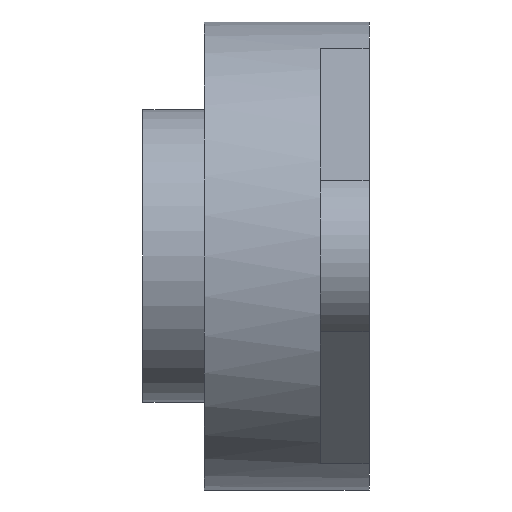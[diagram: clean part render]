
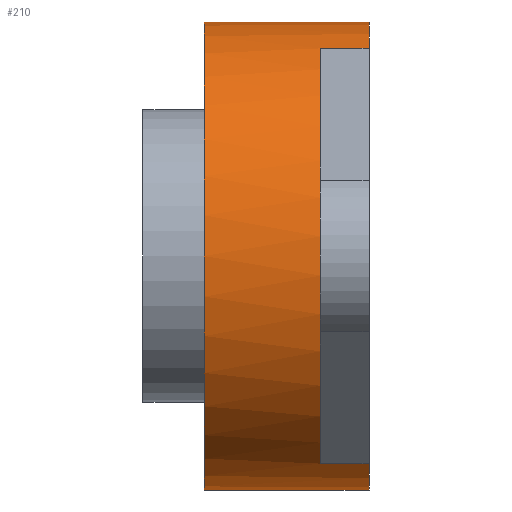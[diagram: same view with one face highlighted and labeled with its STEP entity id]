
A CAD part, front view. The second image highlights one B-rep face of the part: STEP entity #210.
In plain terms, the highlighted cylindrical face has radius 54 mm (diameter 108 mm), a partial arc.
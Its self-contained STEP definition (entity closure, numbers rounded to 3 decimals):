
#3 = ORIENTED_EDGE ( 'NONE', *, *, #85, .T. ) ;
#5 = ORIENTED_EDGE ( 'NONE', *, *, #258, .F. ) ;
#10 = VERTEX_POINT ( 'NONE', #295 ) ;
#11 = ORIENTED_EDGE ( 'NONE', *, *, #262, .T. ) ;
#24 = ORIENTED_EDGE ( 'NONE', *, *, #211, .T. ) ;
#26 = VERTEX_POINT ( 'NONE', #280 ) ;
#30 = ORIENTED_EDGE ( 'NONE', *, *, #182, .T. ) ;
#32 = ORIENTED_EDGE ( 'NONE', *, *, #89, .F. ) ;
#42 = ORIENTED_EDGE ( 'NONE', *, *, #214, .T. ) ;
#43 = ORIENTED_EDGE ( 'NONE', *, *, #248, .F. ) ;
#59 = VERTEX_POINT ( 'NONE', #379 ) ;
#65 = VERTEX_POINT ( 'NONE', #363 ) ;
#85 = EDGE_CURVE ( 'NONE', #65, #173, #409, .T. ) ;
#88 = VERTEX_POINT ( 'NONE', #396 ) ;
#89 = EDGE_CURVE ( 'NONE', #152, #88, #406, .T. ) ;
#142 = VERTEX_POINT ( 'NONE', #496 ) ;
#152 = VERTEX_POINT ( 'NONE', #533 ) ;
#173 = VERTEX_POINT ( 'NONE', #548 ) ;
#174 = EDGE_CURVE ( 'NONE', #197, #59, #547, .T. ) ;
#182 = EDGE_CURVE ( 'NONE', #152, #142, #597, .T. ) ;
#197 = VERTEX_POINT ( 'NONE', #611 ) ;
#210 = ADVANCED_FACE ( 'NONE', ( #655 ), #654, .T. ) ;
#211 = EDGE_CURVE ( 'NONE', #173, #59, #656, .T. ) ;
#214 = EDGE_CURVE ( 'NONE', #219, #88, #644, .T. ) ;
#219 = VERTEX_POINT ( 'NONE', #645 ) ;
#224 = EDGE_LOOP ( 'NONE', ( #229, #241, #42, #32, #30, #11, #43, #5, #3, #24 ) ) ;
#229 = ORIENTED_EDGE ( 'NONE', *, *, #174, .F. ) ;
#241 = ORIENTED_EDGE ( 'NONE', *, *, #257, .F. ) ;
#248 = EDGE_CURVE ( 'NONE', #10, #26, #700, .T. ) ;
#257 = EDGE_CURVE ( 'NONE', #219, #197, #695, .T. ) ;
#258 = EDGE_CURVE ( 'NONE', #65, #10, #708, .T. ) ;
#262 = EDGE_CURVE ( 'NONE', #142, #26, #701, .T. ) ;
#280 = CARTESIAN_POINT ( 'NONE',  ( -11.25, -24.909, 47.912 ) ) ;
#295 = CARTESIAN_POINT ( 'NONE',  ( 0., -24.909, 47.912 ) ) ;
#363 = CARTESIAN_POINT ( 'NONE',  ( 0., 0., 54. ) ) ;
#379 = CARTESIAN_POINT ( 'NONE',  ( -38., 0., -54. ) ) ;
#391 = DIRECTION ( 'NONE',  ( 0., 0.887, -0.461 ) ) ;
#392 = VECTOR ( 'NONE', #391, 1000. ) ;
#393 = CARTESIAN_POINT ( 'NONE',  ( -11.25, -54.135, -32.718 ) ) ;
#396 = CARTESIAN_POINT ( 'NONE',  ( -11.25, -24.909, -47.912 ) ) ;
#403 = DIRECTION ( 'NONE',  ( -1., 0., 0. ) ) ;
#404 = VECTOR ( 'NONE', #403, 1000. ) ;
#406 = LINE ( 'NONE', #393, #392 ) ;
#408 = CARTESIAN_POINT ( 'NONE',  ( -38., 0., 54. ) ) ;
#409 = LINE ( 'NONE', #408, #404 ) ;
#496 = CARTESIAN_POINT ( 'NONE',  ( -11.25, -24.913, 47.91 ) ) ;
#533 = CARTESIAN_POINT ( 'NONE',  ( -11.25, -24.912, -47.91 ) ) ;
#546 = CARTESIAN_POINT ( 'NONE',  ( -38., 0., -54. ) ) ;
#547 = LINE ( 'NONE', #546, #599 ) ;
#548 = CARTESIAN_POINT ( 'NONE',  ( -38., 0., 54. ) ) ;
#577 = DIRECTION ( 'NONE',  ( 0., 0., 1. ) ) ;
#578 = DIRECTION ( 'NONE',  ( -1., 0., 0. ) ) ;
#579 = CARTESIAN_POINT ( 'NONE',  ( -11.25, 0., 0. ) ) ;
#580 = AXIS2_PLACEMENT_3D ( 'NONE', #579, #578, #577 ) ;
#597 = CIRCLE ( 'NONE', #580, 54. ) ;
#598 = DIRECTION ( 'NONE',  ( -1., 0., 0. ) ) ;
#599 = VECTOR ( 'NONE', #598, 1000. ) ;
#604 = DIRECTION ( 'NONE',  ( -1., 0., 0. ) ) ;
#605 = CARTESIAN_POINT ( 'NONE',  ( -38., 0., 0. ) ) ;
#611 = CARTESIAN_POINT ( 'NONE',  ( 0., 0., -54. ) ) ;
#641 = DIRECTION ( 'NONE',  ( -1., 0., 0. ) ) ;
#642 = VECTOR ( 'NONE', #641, 1000. ) ;
#643 = CARTESIAN_POINT ( 'NONE',  ( -19., -24.909, -47.912 ) ) ;
#644 = LINE ( 'NONE', #643, #642 ) ;
#645 = CARTESIAN_POINT ( 'NONE',  ( 0., -24.909, -47.912 ) ) ;
#646 = DIRECTION ( 'NONE',  ( 0., 0., 1. ) ) ;
#647 = DIRECTION ( 'NONE',  ( 1., 0., 0. ) ) ;
#648 = CARTESIAN_POINT ( 'NONE',  ( -38., 0., 0. ) ) ;
#649 = AXIS2_PLACEMENT_3D ( 'NONE', #648, #647, #646 ) ;
#651 = DIRECTION ( 'NONE',  ( 0., 0., 1. ) ) ;
#653 = AXIS2_PLACEMENT_3D ( 'NONE', #605, #604, #651 ) ;
#654 = CYLINDRICAL_SURFACE ( 'NONE', #653, 54. ) ;
#655 = FACE_OUTER_BOUND ( 'NONE', #224, .T. ) ;
#656 = CIRCLE ( 'NONE', #649, 54. ) ;
#694 = AXIS2_PLACEMENT_3D ( 'NONE', #742, #741, #740 ) ;
#695 = CIRCLE ( 'NONE', #694, 54. ) ;
#697 = DIRECTION ( 'NONE',  ( -1., 0., 0. ) ) ;
#698 = VECTOR ( 'NONE', #697, 1000. ) ;
#699 = CARTESIAN_POINT ( 'NONE',  ( -11.25, -24.909, 47.912 ) ) ;
#700 = LINE ( 'NONE', #699, #698 ) ;
#701 = CIRCLE ( 'NONE', #728, 54. ) ;
#708 = CIRCLE ( 'NONE', #737, 54. ) ;
#726 = DIRECTION ( 'NONE',  ( 0., 1., 0. ) ) ;
#727 = DIRECTION ( 'NONE',  ( -1., 0., 0. ) ) ;
#728 = AXIS2_PLACEMENT_3D ( 'NONE', #733, #727, #726 ) ;
#733 = CARTESIAN_POINT ( 'NONE',  ( -11.25, 0., 0. ) ) ;
#735 = DIRECTION ( 'NONE',  ( 0., 0., 1. ) ) ;
#736 = DIRECTION ( 'NONE',  ( 1., 0., 0. ) ) ;
#737 = AXIS2_PLACEMENT_3D ( 'NONE', #743, #736, #735 ) ;
#740 = DIRECTION ( 'NONE',  ( 0., 0., 1. ) ) ;
#741 = DIRECTION ( 'NONE',  ( 1., 0., 0. ) ) ;
#742 = CARTESIAN_POINT ( 'NONE',  ( 0., 0., 0. ) ) ;
#743 = CARTESIAN_POINT ( 'NONE',  ( 0., 0., 0. ) ) ;
